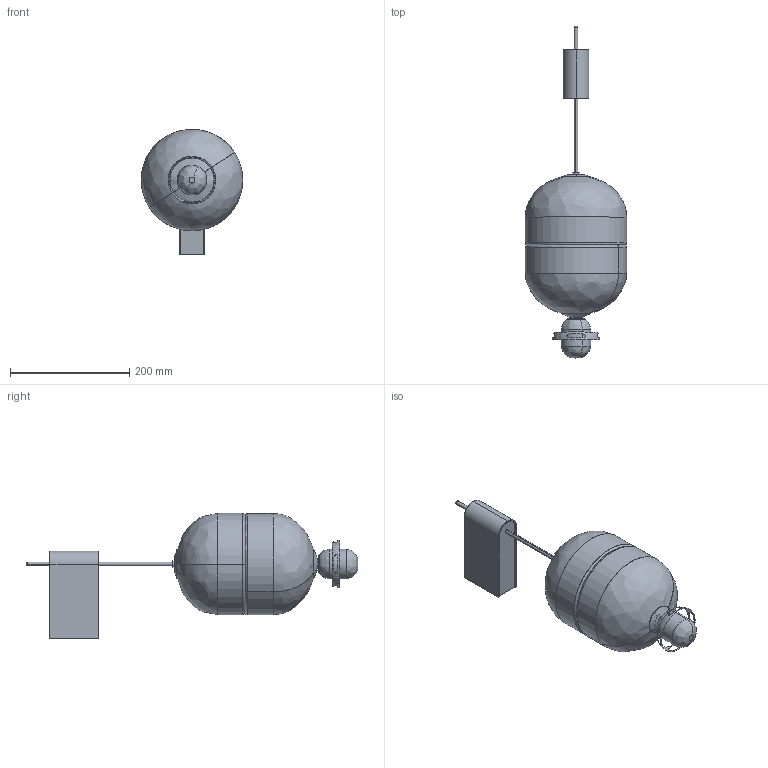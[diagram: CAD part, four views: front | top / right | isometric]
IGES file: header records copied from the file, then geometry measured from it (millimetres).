
Start section: SolidWorks IGES file using analytic representation for surfaces
Global section: file name: C:\Users\liamb\Dropbox\Rakumba Marketing - Design\LIGHTWEIGHT CAD MODEL LIBRARY\Exported File Formats FOR CLIENT USE - Public\Indre\Indre Wall Mount A\Light Weight - Indre - Indre Wall Mount A.IGS; native system: SolidWorks 2017; preprocessor: SolidWorks 2017; author: liamb; date: 230613.171648; units: millimetre
Bounding box: 170 x 556.64 x 210 mm (x, y, z)
Surface area: 481756 mm2 (no closed solid volume)
Topology: 0 solids, 0 shells, 175 faces, 2304 edges, 2302 vertices
Faces by surface type: bspline 93, revolution 82
